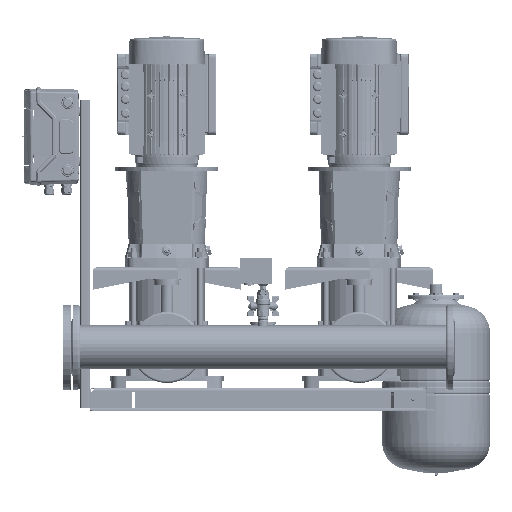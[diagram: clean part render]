
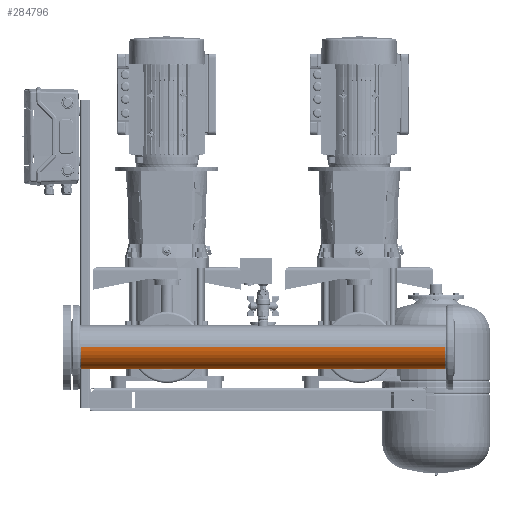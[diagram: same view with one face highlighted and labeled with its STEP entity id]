
A CAD part, front view. The second image highlights one B-rep face of the part: STEP entity #284796.
In plain terms, the highlighted cylindrical face has radius 57.15 mm (diameter 114.3 mm), a partial arc.
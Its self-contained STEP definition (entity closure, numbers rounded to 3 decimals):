
#284346=CARTESIAN_POINT('Vertex',(57.15,13.45,0.)) ;
#284353=CARTESIAN_POINT('Vertex',(57.15,-13.45,0.)) ;
#284357=CARTESIAN_POINT('Control Point',(57.15,13.45,0.)) ;
#284358=CARTESIAN_POINT('Control Point',(57.15,13.45,-2.446)) ;
#284359=CARTESIAN_POINT('Control Point',(57.019,12.894,-4.892)) ;
#284360=CARTESIAN_POINT('Control Point',(56.756,11.782,-7.156)) ;
#284361=CARTESIAN_POINT('Control Point',(56.174,8.85,-10.757)) ;
#284362=CARTESIAN_POINT('Control Point',(55.693,4.727,-12.861)) ;
#284363=CARTESIAN_POINT('Control Point',(55.543,2.632,-13.45)) ;
#284364=CARTESIAN_POINT('Control Point',(55.468,-1.848,-13.777)) ;
#284365=CARTESIAN_POINT('Control Point',(55.815,-6.098,-12.318)) ;
#284366=CARTESIAN_POINT('Control Point',(56.091,-8.093,-11.104)) ;
#284367=CARTESIAN_POINT('Control Point',(56.593,-10.975,-8.378)) ;
#284368=CARTESIAN_POINT('Control Point',(56.975,-12.708,-4.84)) ;
#284369=CARTESIAN_POINT('Control Point',(57.092,-13.203,-3.262)) ;
#284370=CARTESIAN_POINT('Control Point',(57.15,-13.45,-1.631)) ;
#284371=CARTESIAN_POINT('Control Point',(57.15,-13.45,0.)) ;
#284585=CARTESIAN_POINT('Axis2P3D Location',(0.,0.,0.)) ;
#284590=CARTESIAN_POINT('Line Origine',(57.15,0.,0.)) ;
#284594=CARTESIAN_POINT('Vertex',(57.15,211.95,0.)) ;
#284625=CARTESIAN_POINT('Vertex',(57.15,288.05,0.)) ;
#284628=CARTESIAN_POINT('Line Origine',(57.15,0.,0.)) ;
#284632=CARTESIAN_POINT('Vertex',(57.15,472.,0.)) ;
#284639=CARTESIAN_POINT('Vertex',(-57.15,472.,0.)) ;
#284642=CARTESIAN_POINT('Line Origine',(-57.15,0.,0.)) ;
#284646=CARTESIAN_POINT('Vertex',(-57.15,-472.,0.)) ;
#284653=CARTESIAN_POINT('Vertex',(57.15,-472.,0.)) ;
#284656=CARTESIAN_POINT('Line Origine',(57.15,0.,0.)) ;
#284660=CARTESIAN_POINT('Vertex',(57.15,-288.05,0.)) ;
#284691=CARTESIAN_POINT('Vertex',(57.15,-211.95,0.)) ;
#284694=CARTESIAN_POINT('Line Origine',(57.15,0.,0.)) ;
#284717=CARTESIAN_POINT('Control Point',(57.15,-211.95,0.)) ;
#284718=CARTESIAN_POINT('Control Point',(57.15,-211.95,-2.313)) ;
#284719=CARTESIAN_POINT('Control Point',(57.033,-212.126,-4.626)) ;
#284720=CARTESIAN_POINT('Control Point',(56.799,-212.477,-6.912)) ;
#284721=CARTESIAN_POINT('Control Point',(55.885,-213.863,-12.88)) ;
#284722=CARTESIAN_POINT('Control Point',(54.291,-216.361,-18.363)) ;
#284723=CARTESIAN_POINT('Control Point',(53.091,-218.304,-21.521)) ;
#284724=CARTESIAN_POINT('Control Point',(50.524,-222.695,-27.076)) ;
#284725=CARTESIAN_POINT('Control Point',(47.809,-228.185,-31.45)) ;
#284726=CARTESIAN_POINT('Control Point',(46.527,-231.074,-33.277)) ;
#284727=CARTESIAN_POINT('Control Point',(44.374,-236.859,-36.08)) ;
#284728=CARTESIAN_POINT('Control Point',(43.013,-243.298,-37.643)) ;
#284729=CARTESIAN_POINT('Control Point',(42.622,-246.381,-38.07)) ;
#284730=CARTESIAN_POINT('Control Point',(42.44,-252.817,-38.28)) ;
#284731=CARTESIAN_POINT('Control Point',(43.427,-259.091,-37.164)) ;
#284732=CARTESIAN_POINT('Control Point',(44.213,-262.186,-36.254)) ;
#284733=CARTESIAN_POINT('Control Point',(45.814,-267.082,-34.254)) ;
#284734=CARTESIAN_POINT('Control Point',(47.705,-271.473,-31.514)) ;
#284735=CARTESIAN_POINT('Control Point',(48.492,-273.154,-30.3)) ;
#284736=CARTESIAN_POINT('Control Point',(50.792,-277.767,-26.468)) ;
#284737=CARTESIAN_POINT('Control Point',(53.018,-281.588,-21.762)) ;
#284738=CARTESIAN_POINT('Control Point',(54.336,-283.716,-18.329)) ;
#284739=CARTESIAN_POINT('Control Point',(55.96,-286.252,-12.64)) ;
#284740=CARTESIAN_POINT('Control Point',(56.843,-287.589,-6.463)) ;
#284741=CARTESIAN_POINT('Control Point',(57.048,-287.896,-4.323)) ;
#284742=CARTESIAN_POINT('Control Point',(57.15,-288.05,-2.162)) ;
#284743=CARTESIAN_POINT('Control Point',(57.15,-288.05,0.)) ;
#284745=CARTESIAN_POINT('Axis2P3D Location',(0.,-472.,0.)) ;
#284750=CARTESIAN_POINT('Axis2P3D Location',(0.,472.,0.)) ;
#284756=CARTESIAN_POINT('Control Point',(57.15,288.05,0.)) ;
#284757=CARTESIAN_POINT('Control Point',(57.15,288.05,-2.313)) ;
#284758=CARTESIAN_POINT('Control Point',(57.033,287.874,-4.626)) ;
#284759=CARTESIAN_POINT('Control Point',(56.799,287.523,-6.912)) ;
#284760=CARTESIAN_POINT('Control Point',(55.885,286.137,-12.88)) ;
#284761=CARTESIAN_POINT('Control Point',(54.291,283.639,-18.363)) ;
#284762=CARTESIAN_POINT('Control Point',(53.091,281.696,-21.521)) ;
#284763=CARTESIAN_POINT('Control Point',(50.524,277.305,-27.076)) ;
#284764=CARTESIAN_POINT('Control Point',(47.809,271.815,-31.45)) ;
#284765=CARTESIAN_POINT('Control Point',(46.527,268.926,-33.277)) ;
#284766=CARTESIAN_POINT('Control Point',(44.374,263.141,-36.08)) ;
#284767=CARTESIAN_POINT('Control Point',(43.013,256.702,-37.643)) ;
#284768=CARTESIAN_POINT('Control Point',(42.622,253.619,-38.07)) ;
#284769=CARTESIAN_POINT('Control Point',(42.44,247.183,-38.28)) ;
#284770=CARTESIAN_POINT('Control Point',(43.427,240.909,-37.164)) ;
#284771=CARTESIAN_POINT('Control Point',(44.213,237.814,-36.254)) ;
#284772=CARTESIAN_POINT('Control Point',(45.814,232.918,-34.254)) ;
#284773=CARTESIAN_POINT('Control Point',(47.705,228.527,-31.514)) ;
#284774=CARTESIAN_POINT('Control Point',(48.492,226.846,-30.3)) ;
#284775=CARTESIAN_POINT('Control Point',(50.792,222.233,-26.468)) ;
#284776=CARTESIAN_POINT('Control Point',(53.018,218.412,-21.762)) ;
#284777=CARTESIAN_POINT('Control Point',(54.336,216.284,-18.329)) ;
#284778=CARTESIAN_POINT('Control Point',(55.96,213.748,-12.64)) ;
#284779=CARTESIAN_POINT('Control Point',(56.843,212.411,-6.463)) ;
#284780=CARTESIAN_POINT('Control Point',(57.048,212.104,-4.323)) ;
#284781=CARTESIAN_POINT('Control Point',(57.15,211.95,-2.162)) ;
#284782=CARTESIAN_POINT('Control Point',(57.15,211.95,0.)) ;
#284592=VECTOR('Line Direction',#284591,1.) ;
#284630=VECTOR('Line Direction',#284629,1.) ;
#284644=VECTOR('Line Direction',#284643,1.) ;
#284658=VECTOR('Line Direction',#284657,1.) ;
#284696=VECTOR('Line Direction',#284695,1.) ;
#284586=DIRECTION('Axis2P3D Direction',(0.,1.,-0.)) ;
#284587=DIRECTION('Axis2P3D XDirection',(-1.,0.,0.)) ;
#284591=DIRECTION('Vector Direction',(0.,1.,0.)) ;
#284629=DIRECTION('Vector Direction',(0.,1.,0.)) ;
#284643=DIRECTION('Vector Direction',(0.,1.,0.)) ;
#284657=DIRECTION('Vector Direction',(0.,1.,0.)) ;
#284695=DIRECTION('Vector Direction',(0.,1.,0.)) ;
#284746=DIRECTION('Axis2P3D Direction',(0.,1.,-0.)) ;
#284751=DIRECTION('Axis2P3D Direction',(0.,1.,-0.)) ;
#284588=AXIS2_PLACEMENT_3D('Cylinder Axis2P3D',#284585,#284586,#284587) ;
#284747=AXIS2_PLACEMENT_3D('Circle Axis2P3D',#284745,#284746,$) ;
#284752=AXIS2_PLACEMENT_3D('Circle Axis2P3D',#284750,#284751,$) ;
#284593=LINE('Line',#284590,#284592) ;
#284631=LINE('Line',#284628,#284630) ;
#284645=LINE('Line',#284642,#284644) ;
#284659=LINE('Line',#284656,#284658) ;
#284697=LINE('Line',#284694,#284696) ;
#284748=CIRCLE('generated circle',#284747,57.15) ;
#284753=CIRCLE('generated circle',#284752,57.15) ;
#284589=CYLINDRICAL_SURFACE('generated cylinder',#284588,57.15) ;
#284372=EDGE_CURVE('',#284347,#284354,#284356,.T.) ;
#284596=EDGE_CURVE('',#284347,#284595,#284593,.T.) ;
#284634=EDGE_CURVE('',#284626,#284633,#284631,.T.) ;
#284648=EDGE_CURVE('',#284647,#284640,#284645,.T.) ;
#284662=EDGE_CURVE('',#284654,#284661,#284659,.T.) ;
#284698=EDGE_CURVE('',#284692,#284354,#284697,.T.) ;
#284744=EDGE_CURVE('',#284692,#284661,#284716,.T.) ;
#284749=EDGE_CURVE('',#284654,#284647,#284748,.T.) ;
#284754=EDGE_CURVE('',#284633,#284640,#284753,.T.) ;
#284783=EDGE_CURVE('',#284626,#284595,#284755,.T.) ;
#284785=ORIENTED_EDGE('',*,*,#284698,.F.) ;
#284786=ORIENTED_EDGE('',*,*,#284744,.T.) ;
#284787=ORIENTED_EDGE('',*,*,#284662,.F.) ;
#284788=ORIENTED_EDGE('',*,*,#284749,.T.) ;
#284789=ORIENTED_EDGE('',*,*,#284648,.T.) ;
#284790=ORIENTED_EDGE('',*,*,#284754,.F.) ;
#284791=ORIENTED_EDGE('',*,*,#284634,.F.) ;
#284792=ORIENTED_EDGE('',*,*,#284783,.T.) ;
#284793=ORIENTED_EDGE('',*,*,#284596,.F.) ;
#284794=ORIENTED_EDGE('',*,*,#284372,.T.) ;
#284784=EDGE_LOOP('',(#284785,#284786,#284787,#284788,#284789,#284790,#284791,#284792,#284793,#284794)) ;
#284347=VERTEX_POINT('',#284346) ;
#284354=VERTEX_POINT('',#284353) ;
#284595=VERTEX_POINT('',#284594) ;
#284626=VERTEX_POINT('',#284625) ;
#284633=VERTEX_POINT('',#284632) ;
#284640=VERTEX_POINT('',#284639) ;
#284647=VERTEX_POINT('',#284646) ;
#284654=VERTEX_POINT('',#284653) ;
#284661=VERTEX_POINT('',#284660) ;
#284692=VERTEX_POINT('',#284691) ;
#284796=ADVANCED_FACE('PartBody',(#284795),#284589,.T.) ;
#284356=B_SPLINE_CURVE_WITH_KNOTS('',5,(#284357,#284358,#284359,#284360,#284361,#284362,#284363,#284364,#284365,#284366,#284367,#284368,#284369,#284370,#284371),.UNSPECIFIED.,.F.,.U.,(6,3,3,3,6),(0.,17.297,32.296,48.434,59.968),.UNSPECIFIED.) ;
#284716=B_SPLINE_CURVE_WITH_KNOTS('',5,(#284717,#284718,#284719,#284720,#284721,#284722,#284723,#284724,#284725,#284726,#284727,#284728,#284729,#284730,#284731,#284732,#284733,#284734,#284735,#284736,#284737,#284738,#284739,#284740,#284741,#284742,#284743),.UNSPECIFIED.,.F.,.U.,(6,3,3,3,3,3,3,3,6),(0.,16.355,43.643,69.282,91.185,114.422,130.056,159.751,175.037),.UNSPECIFIED.) ;
#284755=B_SPLINE_CURVE_WITH_KNOTS('',5,(#284756,#284757,#284758,#284759,#284760,#284761,#284762,#284763,#284764,#284765,#284766,#284767,#284768,#284769,#284770,#284771,#284772,#284773,#284774,#284775,#284776,#284777,#284778,#284779,#284780,#284781,#284782),.UNSPECIFIED.,.F.,.U.,(6,3,3,3,3,3,3,3,6),(0.,16.355,43.643,69.282,91.185,114.422,130.056,159.751,175.037),.UNSPECIFIED.) ;
#284795=FACE_OUTER_BOUND('',#284784,.T.) ;
